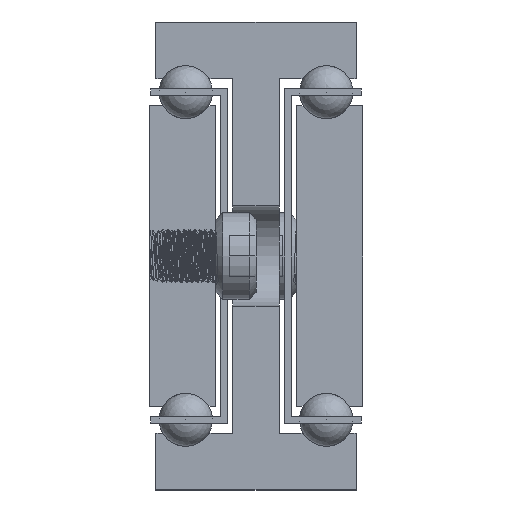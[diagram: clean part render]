
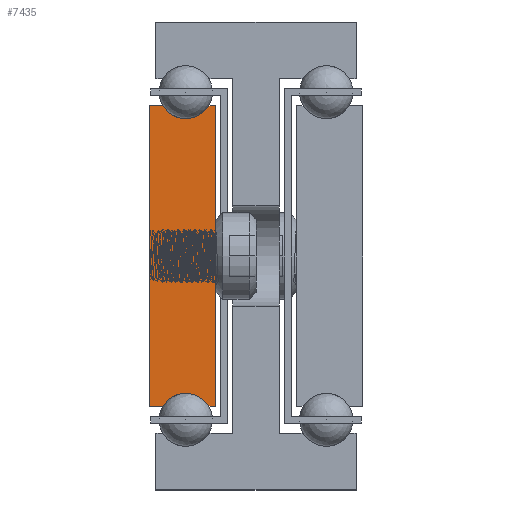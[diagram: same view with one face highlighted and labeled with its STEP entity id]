
A CAD part, front view. The second image highlights one B-rep face of the part: STEP entity #7435.
In plain terms, the highlighted planar face has unit normal (0, -1, 0).
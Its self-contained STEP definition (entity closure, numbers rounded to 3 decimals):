
#1229=CIRCLE('',#8015,4.);
#1231=CIRCLE('',#8021,4.);
#1889=FACE_OUTER_BOUND('',#2373,.T.);
#2373=EDGE_LOOP('',(#5894,#5895,#5896,#5897,#5898,#5899,#5900,#5901));
#3212=LINE('',#100176,#3424);
#3215=LINE('',#100182,#3427);
#3219=LINE('',#100194,#3431);
#3222=LINE('',#100200,#3434);
#3225=LINE('',#100206,#3437);
#3229=LINE('',#100216,#3441);
#3424=VECTOR('',#8994,1.);
#3427=VECTOR('',#8999,1.);
#3431=VECTOR('',#9011,1.);
#3434=VECTOR('',#9016,1.);
#3437=VECTOR('',#9021,1.);
#3441=VECTOR('',#9033,1.);
#3724=VERTEX_POINT('',#100173);
#3725=VERTEX_POINT('',#100175);
#3727=VERTEX_POINT('',#100181);
#3729=VERTEX_POINT('',#100187);
#3731=VERTEX_POINT('',#100193);
#3733=VERTEX_POINT('',#100199);
#3735=VERTEX_POINT('',#100205);
#3737=VERTEX_POINT('',#100211);
#4674=EDGE_CURVE('',#3725,#3724,#3212,.T.);
#4677=EDGE_CURVE('',#3727,#3725,#3215,.T.);
#4680=EDGE_CURVE('',#3729,#3727,#1229,.T.);
#4683=EDGE_CURVE('',#3731,#3729,#3219,.T.);
#4686=EDGE_CURVE('',#3733,#3731,#3222,.T.);
#4689=EDGE_CURVE('',#3735,#3733,#3225,.T.);
#4692=EDGE_CURVE('',#3737,#3735,#1231,.T.);
#4695=EDGE_CURVE('',#3724,#3737,#3229,.T.);
#5894=ORIENTED_EDGE('',*,*,#4695,.T.);
#5895=ORIENTED_EDGE('',*,*,#4692,.T.);
#5896=ORIENTED_EDGE('',*,*,#4689,.T.);
#5897=ORIENTED_EDGE('',*,*,#4686,.T.);
#5898=ORIENTED_EDGE('',*,*,#4683,.T.);
#5899=ORIENTED_EDGE('',*,*,#4680,.T.);
#5900=ORIENTED_EDGE('',*,*,#4677,.T.);
#5901=ORIENTED_EDGE('',*,*,#4674,.T.);
#7289=PLANE('',#8024);
#7435=ADVANCED_FACE('',(#1889),#7289,.T.);
#8015=AXIS2_PLACEMENT_3D('',#100188,#9005,#9006);
#8021=AXIS2_PLACEMENT_3D('',#100212,#9027,#9028);
#8024=AXIS2_PLACEMENT_3D('',#100218,#9036,#9037);
#8994=DIRECTION('',(0.,0.,-1.));
#8999=DIRECTION('',(-1.,0.,0.));
#9005=DIRECTION('center_axis',(0.,1.,0.));
#9006=DIRECTION('ref_axis',(-0.866,0.,-0.5));
#9011=DIRECTION('',(-1.,0.,0.));
#9016=DIRECTION('',(0.,0.,1.));
#9021=DIRECTION('',(1.,0.,0.));
#9027=DIRECTION('center_axis',(0.,1.,0.));
#9028=DIRECTION('ref_axis',(0.866,0.,0.5));
#9033=DIRECTION('',(1.,0.,0.));
#9036=DIRECTION('center_axis',(0.,-1.,0.));
#9037=DIRECTION('ref_axis',(1.,0.,0.));
#100173=CARTESIAN_POINT('',(-1628.638,-2193.395,-57.5));
#100175=CARTESIAN_POINT('',(-1628.638,-2193.395,-12.5));
#100176=CARTESIAN_POINT('',(-1628.638,-2193.395,-57.5));
#100181=CARTESIAN_POINT('',(-1626.602,-2193.395,-12.5));
#100182=CARTESIAN_POINT('',(-1628.638,-2193.395,-12.5));
#100187=CARTESIAN_POINT('',(-1619.674,-2193.395,-12.5));
#100188=CARTESIAN_POINT('Origin',(-1623.138,-2193.395,-10.5));
#100193=CARTESIAN_POINT('',(-1618.638,-2193.395,-12.5));
#100194=CARTESIAN_POINT('',(-1619.674,-2193.395,-12.5));
#100199=CARTESIAN_POINT('',(-1618.638,-2193.395,-57.5));
#100200=CARTESIAN_POINT('',(-1618.638,-2193.395,-12.5));
#100205=CARTESIAN_POINT('',(-1619.674,-2193.395,-57.5));
#100206=CARTESIAN_POINT('',(-1618.638,-2193.395,-57.5));
#100211=CARTESIAN_POINT('',(-1626.602,-2193.395,-57.5));
#100212=CARTESIAN_POINT('Origin',(-1623.138,-2193.395,-59.5));
#100216=CARTESIAN_POINT('',(-1626.602,-2193.395,-57.5));
#100218=CARTESIAN_POINT('Origin',(-1623.644,-2193.395,-35.));
